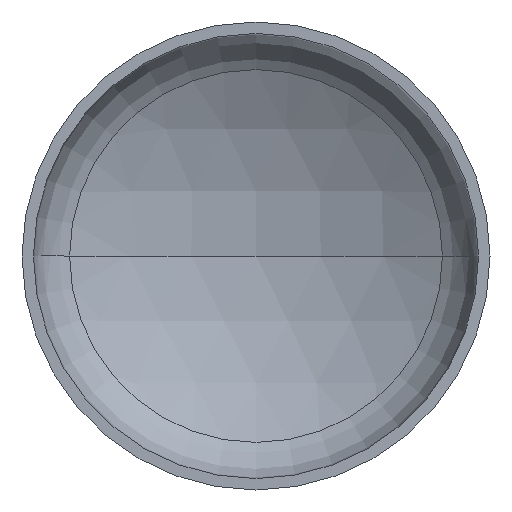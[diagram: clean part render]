
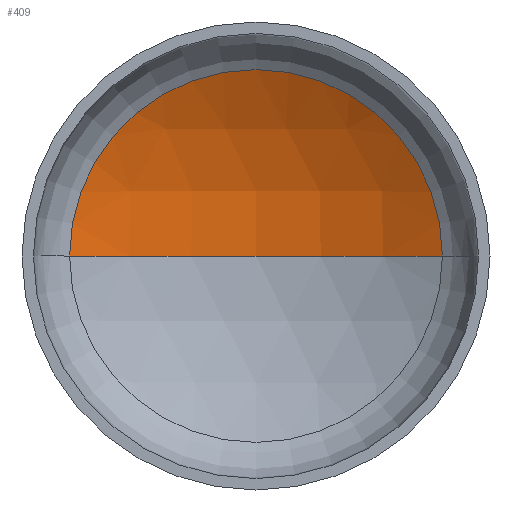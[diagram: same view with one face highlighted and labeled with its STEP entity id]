
A CAD part, front view. The second image highlights one B-rep face of the part: STEP entity #409.
In plain terms, the highlighted spherical face has radius 3200 mm.
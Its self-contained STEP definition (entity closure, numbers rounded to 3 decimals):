
#5 = DIRECTION ( 'NONE',  ( 1., 0., 0. ) ) ;
#6 = DIRECTION ( 'NONE',  ( 0., 0., -1. ) ) ;
#7 = AXIS2_PLACEMENT_3D ( 'NONE', #139, #206, #5 ) ;
#13 = VERTEX_POINT ( 'NONE', #278 ) ;
#17 = EDGE_LOOP ( 'NONE', ( #27, #387, #148 ) ) ;
#27 = ORIENTED_EDGE ( 'NONE', *, *, #355, .F. ) ;
#41 = AXIS2_PLACEMENT_3D ( 'NONE', #219, #6, #163 ) ;
#42 = AXIS2_PLACEMENT_3D ( 'NONE', #226, #227, #203 ) ;
#64 = CIRCLE ( 'NONE', #42, 1593.191 ) ;
#108 = VERTEX_POINT ( 'NONE', #299 ) ;
#118 = EDGE_CURVE ( 'NONE', #108, #152, #64, .T. ) ;
#125 = DIRECTION ( 'NONE',  ( -1., 0., 0. ) ) ;
#129 = DIRECTION ( 'NONE',  ( 0., 0., -1. ) ) ;
#139 = CARTESIAN_POINT ( 'NONE',  ( 0., -2141.842, 0. ) ) ;
#140 = EDGE_CURVE ( 'NONE', #13, #108, #304, .T. ) ;
#148 = ORIENTED_EDGE ( 'NONE', *, *, #118, .T. ) ;
#152 = VERTEX_POINT ( 'NONE', #185 ) ;
#163 = DIRECTION ( 'NONE',  ( -1., 0., 0. ) ) ;
#185 = CARTESIAN_POINT ( 'NONE',  ( -1593.191, 633.359, 0. ) ) ;
#203 = DIRECTION ( 'NONE',  ( 1., 0., 0. ) ) ;
#206 = DIRECTION ( 'NONE',  ( 0., 0., 1. ) ) ;
#219 = CARTESIAN_POINT ( 'NONE',  ( 0., -2141.842, 0. ) ) ;
#221 = CARTESIAN_POINT ( 'NONE',  ( 0., -2141.842, 0. ) ) ;
#226 = CARTESIAN_POINT ( 'NONE',  ( 0., 633.359, 0. ) ) ;
#227 = DIRECTION ( 'NONE',  ( 0., -1., 0. ) ) ;
#264 = SPHERICAL_SURFACE ( 'NONE', #377, 3200. ) ;
#278 = CARTESIAN_POINT ( 'NONE',  ( 0., 1058.158, 0. ) ) ;
#283 = CIRCLE ( 'NONE', #7, 3200. ) ;
#299 = CARTESIAN_POINT ( 'NONE',  ( 1593.191, 633.359, 0. ) ) ;
#304 = CIRCLE ( 'NONE', #41, 3200. ) ;
#355 = EDGE_CURVE ( 'NONE', #13, #152, #283, .T. ) ;
#367 = FACE_OUTER_BOUND ( 'NONE', #17, .T. ) ;
#377 = AXIS2_PLACEMENT_3D ( 'NONE', #221, #129, #125 ) ;
#387 = ORIENTED_EDGE ( 'NONE', *, *, #140, .T. ) ;
#409 = ADVANCED_FACE ( 'NONE', ( #367 ), #264, .F. ) ;
